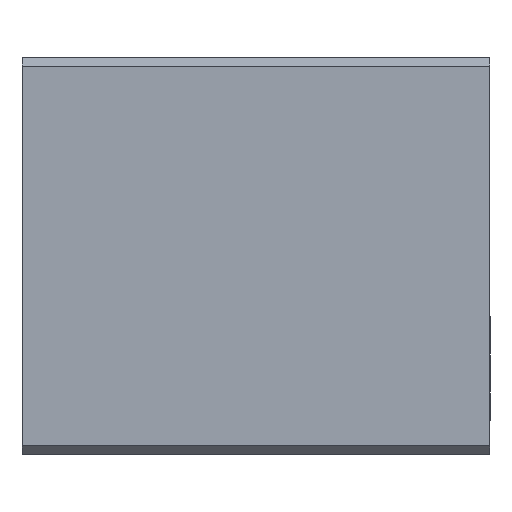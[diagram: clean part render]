
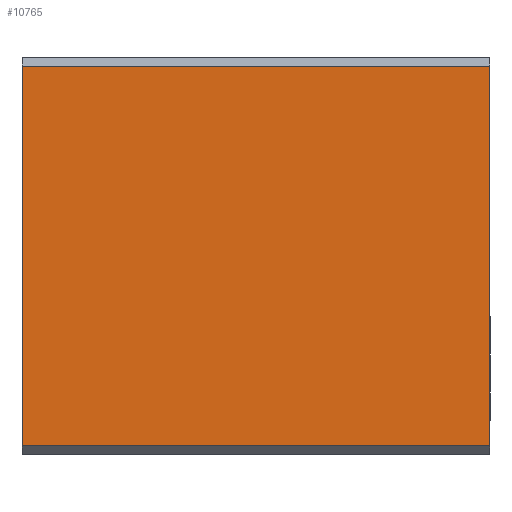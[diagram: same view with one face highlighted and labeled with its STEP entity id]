
A CAD part, front view. The second image highlights one B-rep face of the part: STEP entity #10765.
In plain terms, the highlighted planar face has unit normal (0, -1, 0).
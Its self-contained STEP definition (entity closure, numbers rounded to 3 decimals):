
#9 = ORIENTED_EDGE ( 'NONE', *, *, #2965, .F. ) ;
#365 = EDGE_CURVE ( 'NONE', #11302, #8196, #7421, .T. ) ;
#520 = CARTESIAN_POINT ( 'NONE',  ( 0., -22.5, -21.5 ) ) ;
#650 = DIRECTION ( 'NONE',  ( 0., 0., -1. ) ) ;
#669 = CARTESIAN_POINT ( 'NONE',  ( 53., -22.5, 22.5 ) ) ;
#2382 = ORIENTED_EDGE ( 'NONE', *, *, #9151, .T. ) ;
#2438 = CARTESIAN_POINT ( 'NONE',  ( 53., -22.5, -21.5 ) ) ;
#2655 = LINE ( 'NONE', #3456, #2685 ) ;
#2685 = VECTOR ( 'NONE', #3437, 1000. ) ;
#2965 = EDGE_CURVE ( 'NONE', #4059, #3460, #14644, .T. ) ;
#3437 = DIRECTION ( 'NONE',  ( -1., 0., 0. ) ) ;
#3456 = CARTESIAN_POINT ( 'NONE',  ( 53., -22.5, 21.5 ) ) ;
#3460 = VERTEX_POINT ( 'NONE', #2438 ) ;
#4059 = VERTEX_POINT ( 'NONE', #7218 ) ;
#4452 = ORIENTED_EDGE ( 'NONE', *, *, #365, .T. ) ;
#5228 = EDGE_CURVE ( 'NONE', #4059, #11302, #2655, .T. ) ;
#6256 = DIRECTION ( 'NONE',  ( 0., 0., -1. ) ) ;
#7218 = CARTESIAN_POINT ( 'NONE',  ( 53., -22.5, 21.5 ) ) ;
#7358 = VECTOR ( 'NONE', #6256, 1000. ) ;
#7421 = LINE ( 'NONE', #14080, #7358 ) ;
#8196 = VERTEX_POINT ( 'NONE', #520 ) ;
#9151 = EDGE_CURVE ( 'NONE', #8196, #3460, #10747, .T. ) ;
#10747 = LINE ( 'NONE', #11503, #11853 ) ;
#10765 = ADVANCED_FACE ( 'NONE', ( #11365 ), #11755, .F. ) ;
#10801 = ORIENTED_EDGE ( 'NONE', *, *, #5228, .T. ) ;
#11195 = DIRECTION ( 'NONE',  ( 0., 0., 1. ) ) ;
#11249 = DIRECTION ( 'NONE',  ( 0., 1., 0. ) ) ;
#11302 = VERTEX_POINT ( 'NONE', #13312 ) ;
#11306 = CARTESIAN_POINT ( 'NONE',  ( 53., -22.5, 22.5 ) ) ;
#11365 = FACE_OUTER_BOUND ( 'NONE', #12732, .T. ) ;
#11409 = DIRECTION ( 'NONE',  ( 1., 0., 0. ) ) ;
#11503 = CARTESIAN_POINT ( 'NONE',  ( 53., -22.5, -21.5 ) ) ;
#11755 = PLANE ( 'NONE',  #12325 ) ;
#11853 = VECTOR ( 'NONE', #11409, 1000. ) ;
#12325 = AXIS2_PLACEMENT_3D ( 'NONE', #11306, #11249, #11195 ) ;
#12732 = EDGE_LOOP ( 'NONE', ( #4452, #2382, #9, #10801 ) ) ;
#13312 = CARTESIAN_POINT ( 'NONE',  ( 0., -22.5, 21.5 ) ) ;
#14080 = CARTESIAN_POINT ( 'NONE',  ( 0., -22.5, 22.5 ) ) ;
#14579 = VECTOR ( 'NONE', #650, 1000. ) ;
#14644 = LINE ( 'NONE', #669, #14579 ) ;
